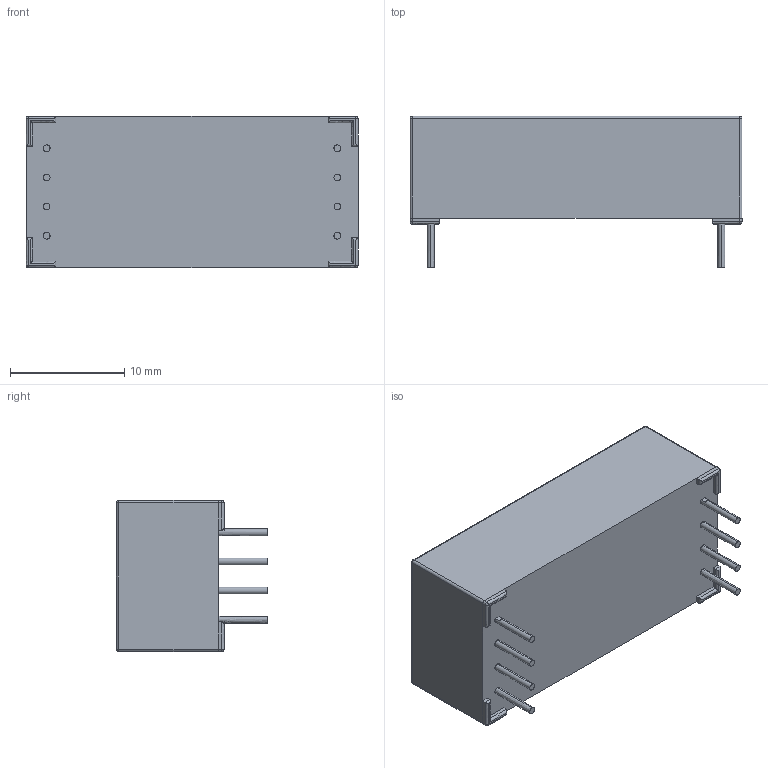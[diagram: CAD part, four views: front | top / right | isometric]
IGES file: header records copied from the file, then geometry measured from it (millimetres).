
Start section: SolidWorks IGES file using analytic representation for surfaces
Global section: file name: T:\Relays in Solidworks\Batch 4\80-2-C.IGS; native system: SolidWorks 2009; preprocessor: SolidWorks 2009; author: alex.leming; date: 100629.162250; units: millimetre
Bounding box: 29 x 13.2 x 13.2 mm (x, y, z)
Surface area: 1587.5 mm2 (no closed solid volume)
Topology: 0 solids, 0 shells, 721 faces, 7564 edges, 7560 vertices
Faces by surface type: bspline 661, revolution 60
